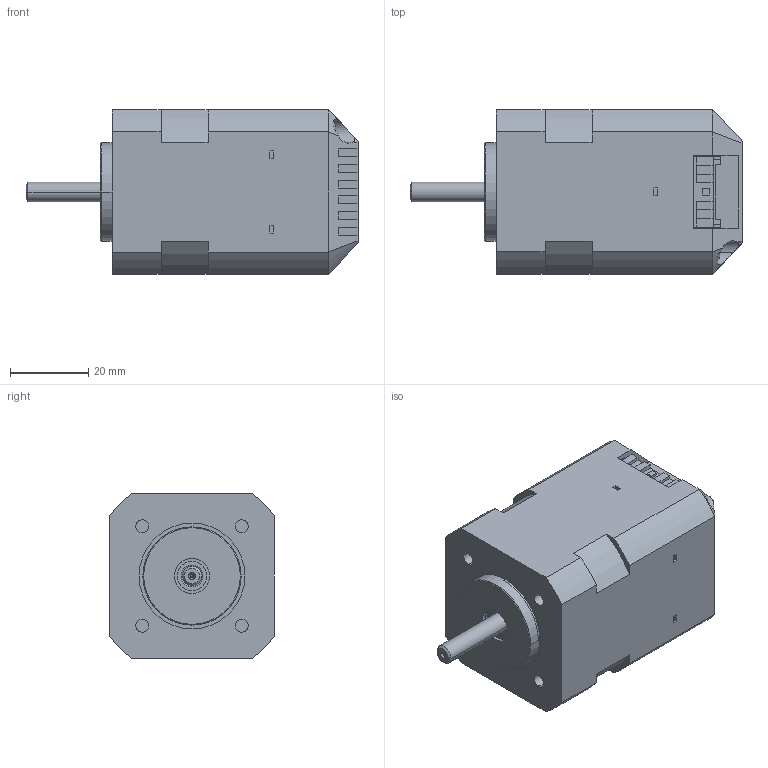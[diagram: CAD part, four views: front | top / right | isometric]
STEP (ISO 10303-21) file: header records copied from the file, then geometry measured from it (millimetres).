
FILE_DESCRIPTION((''),'2;1');
FILE_NAME('3_1_02_042_1545X4_SW0001','2024-10-15T16:49:21',('huangxue'),(''),'CREO PARAMETRIC BY PTC INC, 2017110','CREO PARAMETRIC BY PTC INC, 2017110','');
FILE_SCHEMA(('CONFIG_CONTROL_DESIGN'));
Products named in the file (1): 3_1_02_042_1545X4_SW0001
Bounding box: 84.8 x 42 x 42 mm (x, y, z)
Volume: 62912.4 mm3; surface area: 57886.2 mm2
Topology: 2 solids, 5 shells, 3295 faces, 9006 edges, 5844 vertices
Faces by surface type: plane 2545, cylinder 621, cone 69, torus 29, sphere 21, bspline 10
Entity records: 105301 total; most frequent: CARTESIAN_POINT 20287, ORIENTED_EDGE 18004, DIRECTION 17267, EDGE_CURVE 9002, VECTOR 7009, LINE 7009, VERTEX_POINT 5843, AXIS2_PLACEMENT_3D 5129
